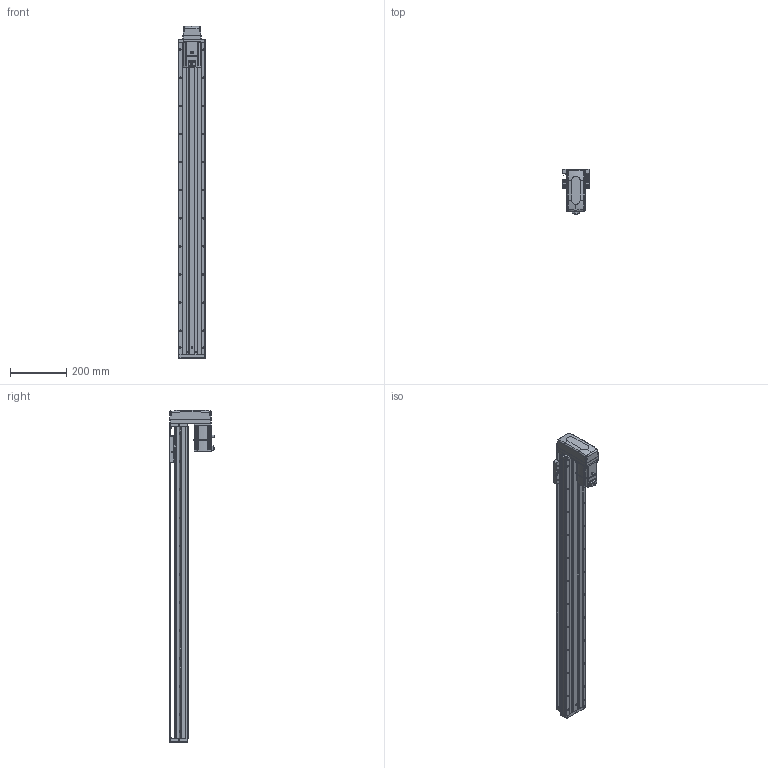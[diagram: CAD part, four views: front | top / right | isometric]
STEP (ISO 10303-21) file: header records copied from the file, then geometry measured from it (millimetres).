
FILE_DESCRIPTION (( 'STEP AP203' ), '1' );
FILE_NAME ('KTHA100-950-BM-M20-C4L.step', '2022-04-26T01:54:59', ( '微软用户' ), ( '微软中国' ), 'SwSTEP 2.0', 'SolidWorks 2020', '' );
FILE_SCHEMA (( 'CONFIG_CONTROL_DESIGN' ));
Length unit declared in the file: millimetre
Products named in the file (17): KTHA100-001_1110; GBT 70.3-M3℅6; CTHA60-021; KTHA100-002; _X2_4E0983F1_X0_200W_1; GBT77-2000 M3×3; KTHA100-004; CTHA86-015-1_CTHA86-015-2; GBT 70.1-M3℅6; KTHA100-005; CTHA86-033; GBT70.1 M5℅16; GB¨uT 70.2-M3¡Á5_M3¡Á6; KTHA100-950-BM-M20-C4L; EE_SX911P_R; CTHA60-016; CTHA60-017
Assembly tree (57 placements, depth 2):
  KTHA100-950-BM-M20-C4L
    KTHA100-001_1110
    KTHA100-002
    KTHA100-004
    KTHA100-005
    GB¨uT 70.2-M3¡Á5_M3¡Á6  x6
    EE_SX911P_R  x3
    CTHA60-017  x3
    CTHA60-021  x2
    GBT77-2000 M3×3  x6
    GBT 70.1-M3℅6  x10
    GBT70.1 M5℅16  x14
    CTHA60-016  x2
    GBT 70.3-M3℅6  x4
    _X2_4E0983F1_X0_200W_1
    CTHA86-015-1_CTHA86-015-2
    CTHA86-033
Bounding box: 98.82 x 163.2 x 1181 mm (x, y, z)
Volume: 4939156 mm3; surface area: 799734.5 mm2
Topology: 60 solids, 60 shells, 2517 faces, 6057 edges, 3760 vertices
Faces by surface type: plane 1292, cylinder 701, cone 317, torus 116, bspline 75, sphere 16
Entity records: 44532 total; most frequent: CARTESIAN_POINT 8896, DIRECTION 6932, ORIENTED_EDGE 6726, EDGE_CURVE 3363, AXIS2_PLACEMENT_3D 2404, VECTOR 2124, LINE 2124, VERTEX_POINT 2120
